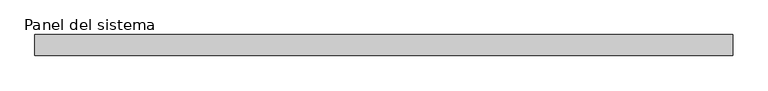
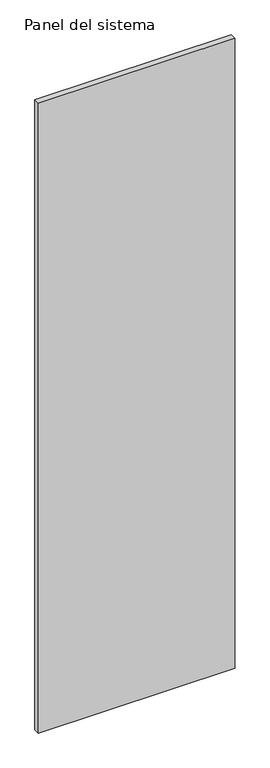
"""IFC4 building model written with IfcOpenShell, lengths in millimetres: plate geometry, Panel del sistema : HIANSA PANEL - PANELES DE ILUMINACIÓN - HEXAGONA - Esp. 30mm."""

from ifc_helpers import new_model, si_unit, origin, origin_with_axes, place, context, project, spatial, polyline, outline, extrude, source, transform, mapped, element, save


def panel_del_sistema_34b5a67a(model_context):
    return source(origin(), model_context, "Body", "SweptSolid", [
        extrude(outline(polyline([(500.0, 0.0), (-500.0, 0.0), (-500.0, 30.0), (500.0, 30.0), (500.0, 0.0)])), origin_with_axes(), (0.0, 0.0, 1.0), 3390.8509027),
    ])


if __name__ == "__main__":
    model = new_model("IFC4")
    model_context = context("Model", 3, world=origin())
    ifc_project = project(units=[si_unit("LENGTHUNIT", "METRE", prefix="MILLI")], contexts=[model_context])
    site = spatial("IfcSite", under=ifc_project)
    building = spatial("IfcBuilding", under=site)
    placement = place(None, origin())
    panel_del_sistema_shape = panel_del_sistema_34b5a67a(model_context)
    element("IfcPlate", 1, ObjectType="Panel del sistema : HIANSA PANEL - PANELES DE ILUMINACIÓN - HEXAGONA - Esp. 30mm", at=placement, inside=building, context=model_context, shape_type="MappedRepresentation", body=[
        mapped(panel_del_sistema_shape, transform((0.0, 0.0, 0.0), x_axis=(1.0, 0.0, 0.0), y_axis=(0.0, 1.0, 0.0), z_axis=(0.0, 0.0, 1.0))),
    ])
    save(model, "model.ifc")
